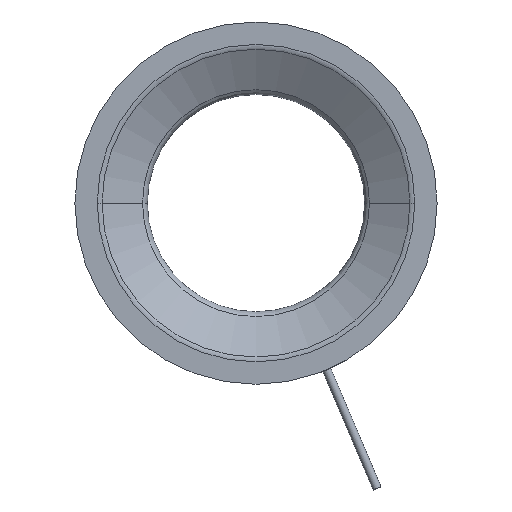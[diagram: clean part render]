
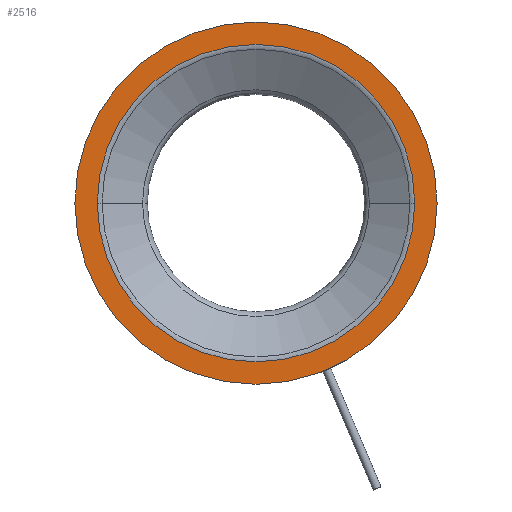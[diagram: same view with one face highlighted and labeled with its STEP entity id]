
A CAD part, left-side view. The second image highlights one B-rep face of the part: STEP entity #2516.
In plain terms, the highlighted planar face has unit normal (-1, 0, 0).
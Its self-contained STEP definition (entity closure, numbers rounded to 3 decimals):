
#863=CARTESIAN_POINT('',(-23.999,0.,0.));
#864=DIRECTION('',(-1.,0.,0.));
#865=DIRECTION('',(0.,1.,0.));
#866=AXIS2_PLACEMENT_3D('',#863,#864,#865);
#868=CARTESIAN_POINT('',(-23.999,0.,0.));
#869=DIRECTION('',(1.,0.,0.));
#870=DIRECTION('',(0.,1.,0.));
#871=AXIS2_PLACEMENT_3D('',#868,#869,#870);
#873=CARTESIAN_POINT('',(-23.999,0.,0.));
#874=DIRECTION('',(-1.,0.,0.));
#875=DIRECTION('',(0.,1.,0.));
#876=AXIS2_PLACEMENT_3D('',#873,#874,#875);
#878=CARTESIAN_POINT('',(-23.999,0.,0.));
#879=DIRECTION('',(1.,0.,0.));
#880=DIRECTION('',(0.,1.,0.));
#881=AXIS2_PLACEMENT_3D('',#878,#879,#880);
#1185=CARTESIAN_POINT('',(-23.999,65.724,0.));
#1187=VERTEX_POINT('',#1185);
#1201=CARTESIAN_POINT('',(-23.999,-65.724,0.));
#1203=VERTEX_POINT('',#1201);
#1217=CARTESIAN_POINT('',(-23.999,75.,0.));
#1218=CARTESIAN_POINT('',(-23.999,-75.,
0.));
#1219=VERTEX_POINT('',#1217);
#1220=VERTEX_POINT('',#1218);
#2503=CARTESIAN_POINT('',(-23.999,0.,0.));
#2504=DIRECTION('',(1.,0.,0.));
#2505=DIRECTION('',(0.,-1.,0.));
#2506=AXIS2_PLACEMENT_3D('',#2503,#2504,#2505);
#2507=PLANE('',#2506);
#2508=ORIENTED_EDGE('',*,*,#1354,.F.);
#2509=ORIENTED_EDGE('',*,*,#2171,.T.);
#2510=EDGE_LOOP('',(#2508,#2509));
#2511=FACE_OUTER_BOUND('',#2510,.F.);
#2512=ORIENTED_EDGE('',*,*,#2496,.F.);
#2513=ORIENTED_EDGE('',*,*,#2485,.T.);
#2514=EDGE_LOOP('',(#2512,#2513));
#2515=FACE_BOUND('',#2514,.F.);
#867=CIRCLE('',#866,65.724);
#872=CIRCLE('',#871,65.724);
#877=CIRCLE('',#876,75.);
#882=CIRCLE('',#881,75.);
#1354=EDGE_CURVE('',#1219,#1220,#877,.T.);
#2171=EDGE_CURVE('',#1219,#1220,#882,.T.);
#2485=EDGE_CURVE('',#1187,#1203,#867,.T.);
#2496=EDGE_CURVE('',#1187,#1203,#872,.T.);
#2516=ADVANCED_FACE('',(#2511,#2515),#2507,.F.);
